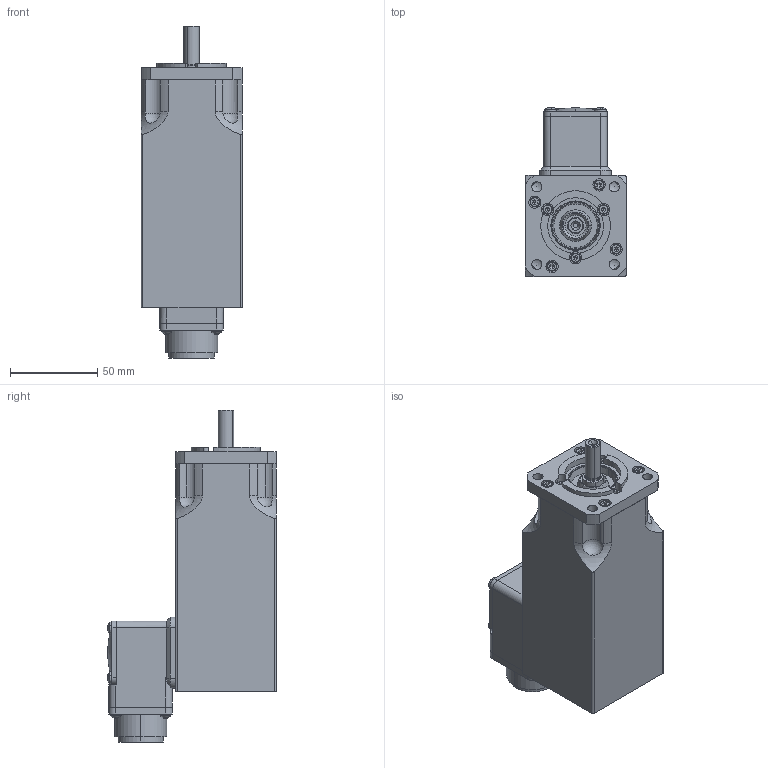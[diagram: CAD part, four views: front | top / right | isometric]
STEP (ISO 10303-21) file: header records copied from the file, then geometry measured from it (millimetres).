
FILE_DESCRIPTION (( 'STEP AP203' ), '1' );
FILE_NAME ('Motor_EGK48-30NRB-+-Katalog11.10_.STEP', '2010-11-03T09:43:00', ( 'Groschopp' ), ( 'Groschopp AG' ), 'SwSTEP 2.0', 'SolidWorks 2007', '' );
FILE_SCHEMA (( 'CONFIG_CONTROL_DESIGN' ));
Length unit declared in the file: millimetre
Products named in the file (1): Motor_EGK48-30NRB-+-Katalog11.10_
Bounding box: 58.5 x 97.05 x 190.75 mm (x, y, z)
Surface area: 58086.4 mm2 (no closed solid volume)
Topology: 0 solids, 24 shells, 412 faces, 1176 edges, 774 vertices
Faces by surface type: plane 218, cylinder 108, cone 58, sphere 14, torus 14
Entity records: 14030 total; most frequent: CARTESIAN_POINT 3222, DIRECTION 2311, ORIENTED_EDGE 2072, EDGE_CURVE 1165, AXIS2_PLACEMENT_3D 845, VERTEX_POINT 767, LINE 621, VECTOR 621
